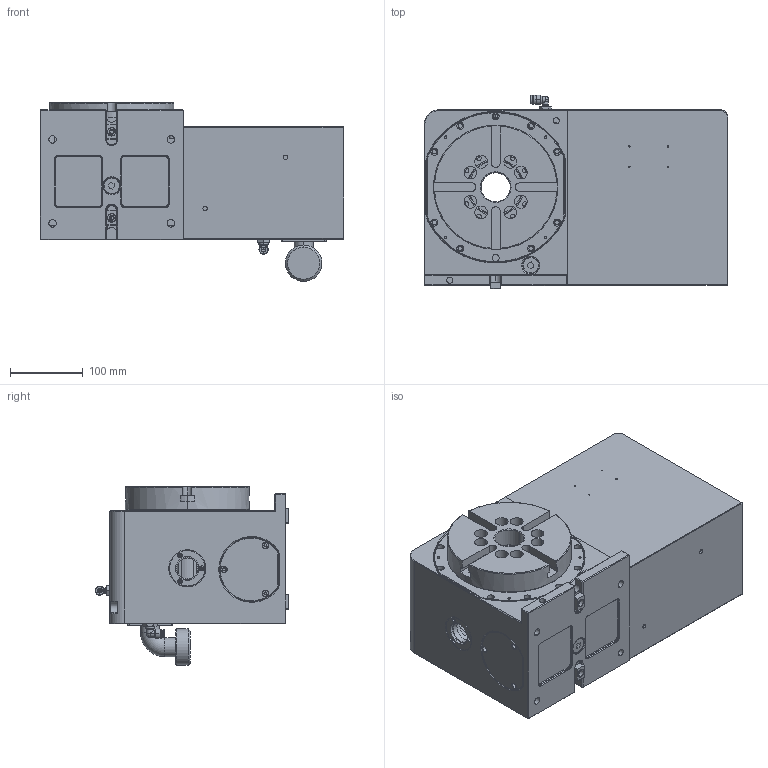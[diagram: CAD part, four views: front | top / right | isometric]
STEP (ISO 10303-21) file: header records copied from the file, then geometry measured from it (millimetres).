
FILE_DESCRIPTION (( 'STEP AP203' ), '1' );
FILE_NAME ('WDS-C170 喜渡俋夤芞 REV.01.STEP', '2021-02-27T03:52:24', ( '' ), ( '' ), 'SwSTEP 2.0', 'SolidWorks 2018', '' );
FILE_SCHEMA (( 'CONFIG_CONTROL_DESIGN' ));
Length unit declared in the file: centimetre
Products named in the file (1): WDS-C170 喜渡俋夤芞 REV.01
Bounding box: 416 x 265.25 x 245 mm (x, y, z)
Surface area: 707910.6 mm2 (no closed solid volume)
Topology: 0 solids, 34 shells, 811 faces, 2418 edges, 1646 vertices
Faces by surface type: cylinder 338, plane 248, cone 169, torus 55, sphere 1
Entity records: 28191 total; most frequent: CARTESIAN_POINT 5566, DIRECTION 5165, ORIENTED_EDGE 4054, EDGE_CURVE 2416, AXIS2_PLACEMENT_3D 2039, VERTEX_POINT 1646, CIRCLE 1227, LINE 1087
